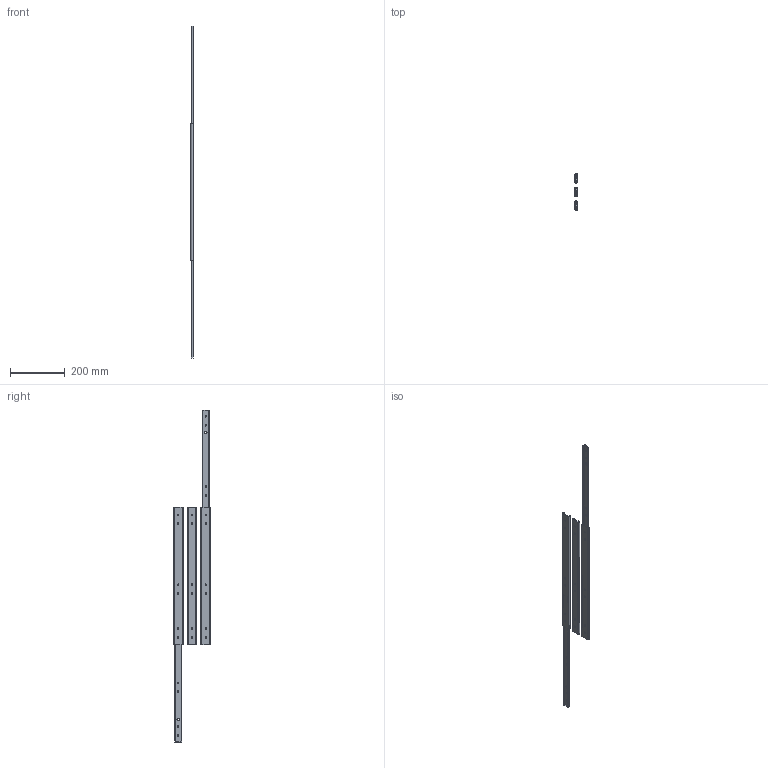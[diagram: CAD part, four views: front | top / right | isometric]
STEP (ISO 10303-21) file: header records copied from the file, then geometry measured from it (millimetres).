
FILE_DESCRIPTION((''),'2;1');
FILE_NAME('D:\01 WORK\DIST\02172A-Drawings for website\2026\DZ2026\STEP\2026-0050 3d open & closed for website.stp','2012-10-03T14:22:25',('jthatch'),(''),'Autodesk Inventor 2012','Autodesk Inventor 2012','');
FILE_SCHEMA(('AUTOMOTIVE_DESIGN { 1 0 10303 214 1 1 1 1 }'));
Length unit declared in the file: millimetre
Products named in the file (3): 2026-0050 3d open & closed for website; 2026-0050 3d Outer member for website; 2026-0050  3d Inner member for website
Assembly tree (6 placements, depth 2):
  2026-0050 3d open & closed for website
    2026-0050 3d Outer member for website  x3
    2026-0050  3d Inner member for website  x3
Bounding box: 9.5 x 135.28 x 1211 mm (x, y, z)
Volume: 168517 mm3; surface area: 251912.4 mm2
Topology: 6 solids, 6 shells, 216 faces, 615 edges, 411 vertices
Faces by surface type: plane 132, cylinder 84
Full cylindrical faces by diameter (mm): 4.3 x6, 10 x6
Entity records: 2494 total; most frequent: DIRECTION 418, CARTESIAN_POINT 417, ORIENTED_EDGE 400, EDGE_CURVE 200, VECTOR 144, LINE 144, AXIS2_PLACEMENT_3D 137, VERTEX_POINT 136
